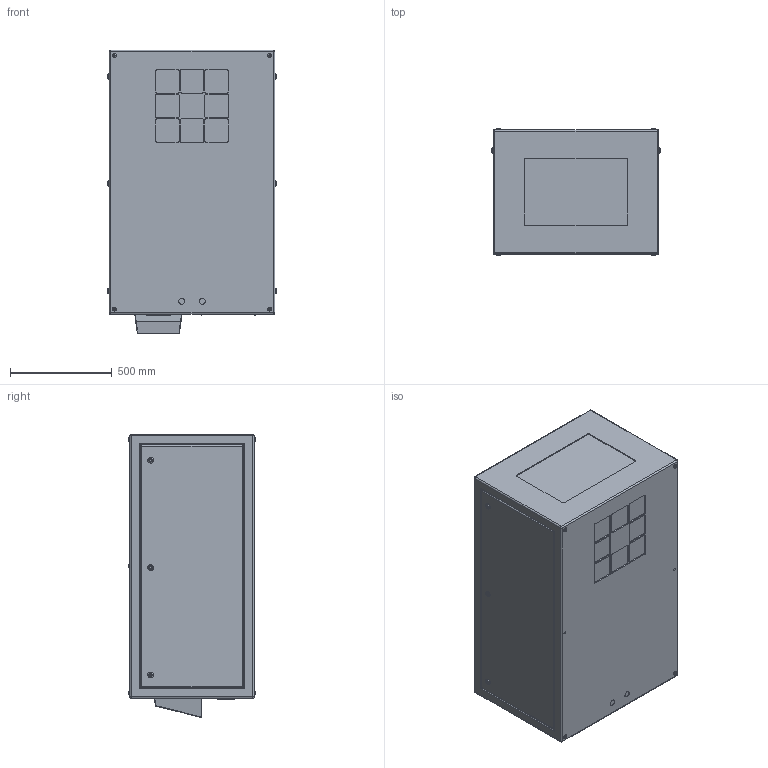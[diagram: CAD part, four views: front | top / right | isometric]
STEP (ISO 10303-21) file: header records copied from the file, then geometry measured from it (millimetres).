
FILE_DESCRIPTION (( 'STEP AP214' ), '1' );
FILE_NAME ('Cyclone 55.305.L.xx R08.STEP', '2020-04-24T15:36:22', ( '' ), ( '' ), 'SwSTEP 2.0', 'SolidWorks 2018', '' );
FILE_SCHEMA (( 'AUTOMOTIVE_DESIGN' ));
Length unit declared in the file: inch
Products named in the file (1): Cyclone 55.305.L.xx R08
Bounding box: 825.5 x 624.33 x 1390.65 mm (x, y, z)
Volume: 639947097.3 mm3; surface area: 5211079.5 mm2
Topology: 1 solids, 1 shells, 479 faces, 1118 edges, 712 vertices
Faces by surface type: plane 257, cylinder 170, torus 44, sphere 8
Entity records: 17242 total; most frequent: DIRECTION 2450, CARTESIAN_POINT 2350, ORIENTED_EDGE 2220, EDGE_CURVE 1110, AXIS2_PLACEMENT_3D 876, VERTEX_POINT 712, VECTOR 698, LINE 698
